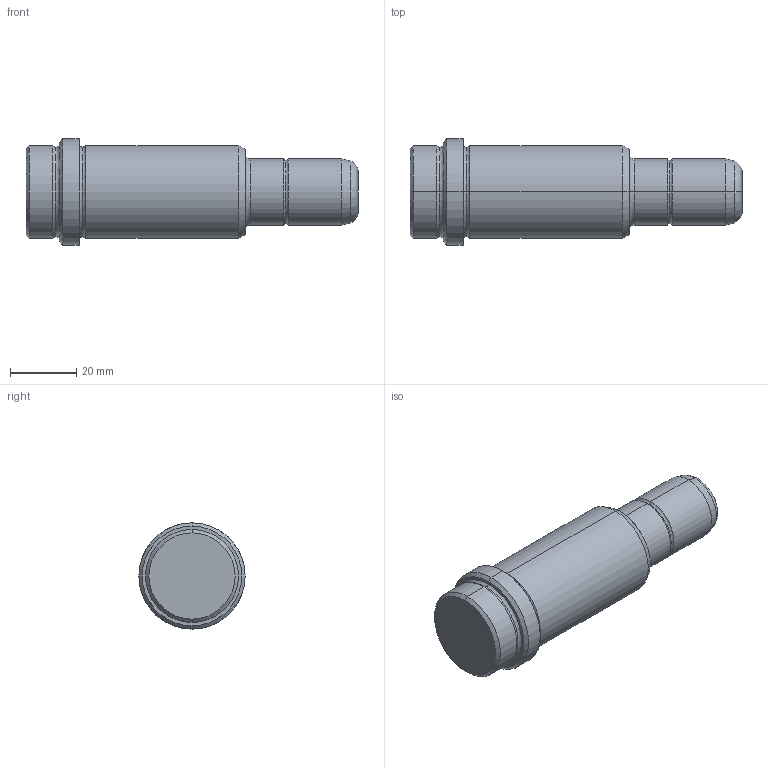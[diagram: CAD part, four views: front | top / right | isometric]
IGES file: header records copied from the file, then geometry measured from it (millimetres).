
Start section: START RECORD GO HERE.
Global section: file name: 357-20X66X100.igs; native system: DASSAULT SYSTEMES CATIA V5 R20 - www.3ds.com; preprocessor: CATIA Version 5 Release 20 ; author: Utente; organization: NB04-ASUS; date: 20210814.112526; units: millimetre
Bounding box: 100 x 32 x 32 mm (x, y, z)
Surface area: 9336.4 mm2 (no closed solid volume)
Topology: 0 solids, 0 shells, 39 faces, 224 edges, 224 vertices
Faces by surface type: revolution 34, plane 5
